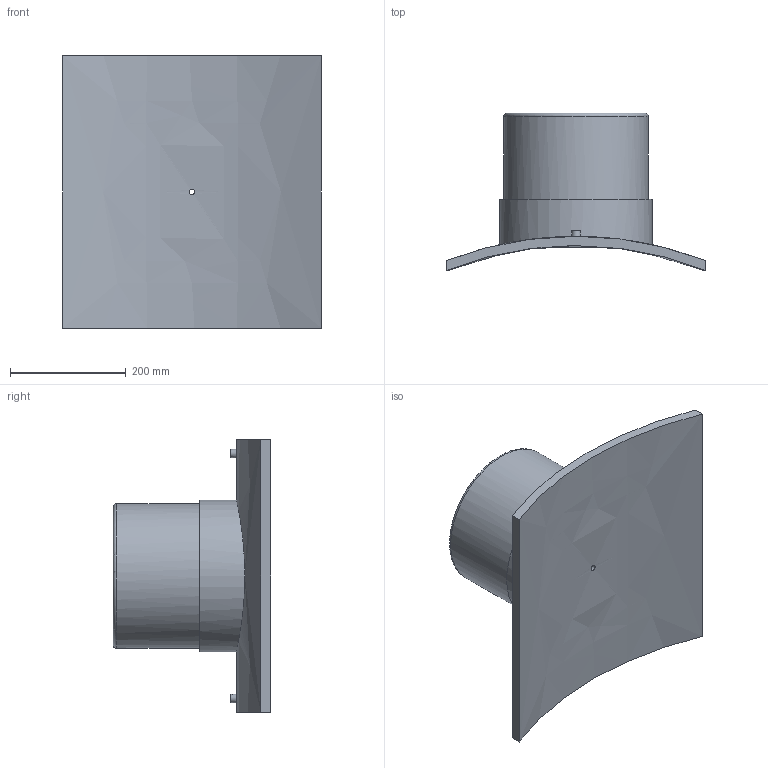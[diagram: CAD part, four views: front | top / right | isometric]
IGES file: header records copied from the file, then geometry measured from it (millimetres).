
Global section: file name: 4958031200250T; native system: Autodesk Inventor 2019; preprocessor: unknown; author: KIM; date: 20240404.114814; units: millimetre
Bounding box: 447 x 272.18 x 470 mm (x, y, z)
Volume: 7656847.9 mm3; surface area: 780102.5 mm2
Topology: 1 solids, 1 shells, 29 faces, 60 edges, 43 vertices
Faces by surface type: bspline 29
